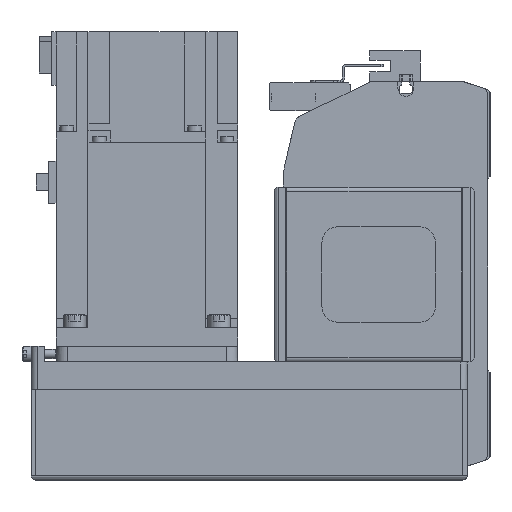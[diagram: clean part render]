
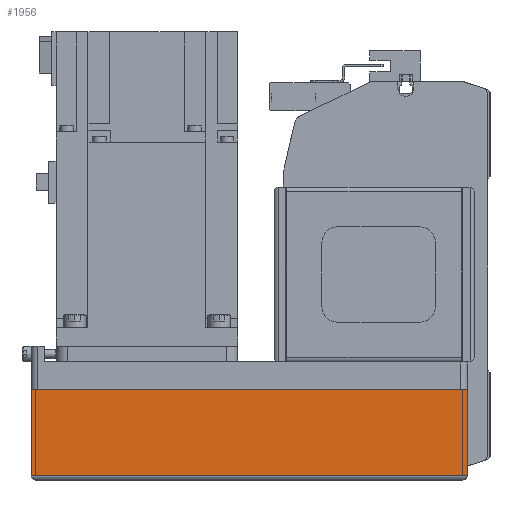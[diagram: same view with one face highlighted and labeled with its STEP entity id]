
A CAD part, left-side view. The second image highlights one B-rep face of the part: STEP entity #1956.
In plain terms, the highlighted planar face has unit normal (-1, 0, 0) as drawn and (0, -1, 0) by its records, which use the part's own axes.
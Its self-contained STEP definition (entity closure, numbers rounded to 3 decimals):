
#1956 = ADVANCED_FACE( '', ( #4527 ), #4528, .T. );
#4527 = FACE_OUTER_BOUND( '', #7835, .T. );
#4528 = PLANE( '', #7836 );
#7835 = EDGE_LOOP( '', ( #13331, #13332, #13333, #13334 ) );
#7836 = AXIS2_PLACEMENT_3D( '', #13335, #13336, #13337 );
#13331 = ORIENTED_EDGE( '', *, *, #20756, .F. );
#13332 = ORIENTED_EDGE( '', *, *, #20757, .F. );
#13333 = ORIENTED_EDGE( '', *, *, #20481, .T. );
#13334 = ORIENTED_EDGE( '', *, *, #20758, .T. );
#13335 = CARTESIAN_POINT( '', ( -192., -40., -12.1 ) );
#13336 = DIRECTION( '', ( 0., -1., 0. ) );
#13337 = DIRECTION( '', ( 0., 0., -1. ) );
#20481 = EDGE_CURVE( '', #25085, #25083, #25086, .T. );
#20756 = EDGE_CURVE( '', #25225, #25504, #25505, .T. );
#20757 = EDGE_CURVE( '', #25085, #25225, #25506, .T. );
#20758 = EDGE_CURVE( '', #25083, #25504, #25507, .T. );
#25083 = VERTEX_POINT( '', #31376 );
#25085 = VERTEX_POINT( '', #31379 );
#25086 = LINE( '', #31380, #31381 );
#25225 = VERTEX_POINT( '', #31612 );
#25504 = VERTEX_POINT( '', #32081 );
#25505 = LINE( '', #32082, #32083 );
#25506 = LINE( '', #32084, #32085 );
#25507 = LINE( '', #32086, #32087 );
#31376 = CARTESIAN_POINT( '', ( -192., -40., -50. ) );
#31379 = CARTESIAN_POINT( '', ( -192., -40., -12.1 ) );
#31380 = CARTESIAN_POINT( '', ( -192., -40., -12.1 ) );
#31381 = VECTOR( '', #37303, 1000. );
#31612 = CARTESIAN_POINT( '', ( 0., -40., -12.1 ) );
#32081 = CARTESIAN_POINT( '', ( 0., -40., -50. ) );
#32082 = CARTESIAN_POINT( '', ( 0., -40., -12.1 ) );
#32083 = VECTOR( '', #37597, 1000. );
#32084 = CARTESIAN_POINT( '', ( -192., -40., -12.1 ) );
#32085 = VECTOR( '', #37598, 1000. );
#32086 = CARTESIAN_POINT( '', ( -192., -40., -50. ) );
#32087 = VECTOR( '', #37599, 1000. );
#37303 = DIRECTION( '', ( 0., 0., -1. ) );
#37597 = DIRECTION( '', ( 0., 0., -1. ) );
#37598 = DIRECTION( '', ( 1., 0., 0. ) );
#37599 = DIRECTION( '', ( 1., 0., 0. ) );
